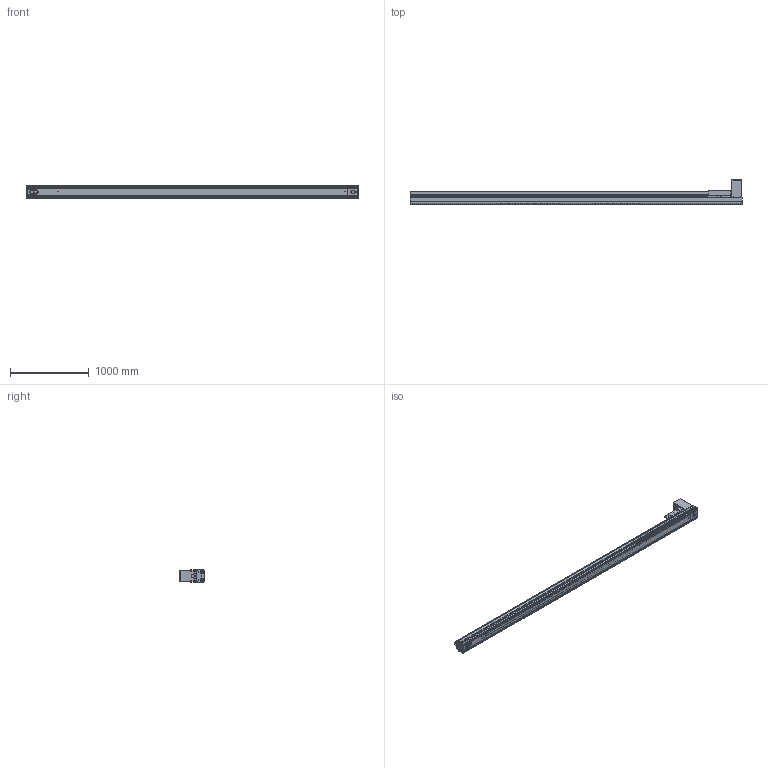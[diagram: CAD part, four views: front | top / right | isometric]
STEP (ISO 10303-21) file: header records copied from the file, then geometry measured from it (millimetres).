
FILE_DESCRIPTION((''),'2;1');
FILE_NAME('BE50G-BT-L19N-W65_IGS_PRT','2017-06-18T',(' '),(''),'PRO/ENGINEER BY PARAMETRIC TECHNOLOGY CORPORATION, 2015030','PRO/ENGINEER BY PARAMETRIC TECHNOLOGY CORPORATION, 2015030','');
FILE_SCHEMA(('CONFIG_CONTROL_DESIGN'));
Products named in the file (1): BE50G-BT-L19N-W65_IGS_PRT
Bounding box: 4220 x 309 x 160 mm (x, y, z)
Volume: 17042892.3 mm3; surface area: 8341043.1 mm2
Topology: 10 solids, 367 shells, 2321 faces, 7080 edges, 4839 vertices
Faces by surface type: cylinder 1365, plane 699, cone 214, sphere 23, torus 20
Entity records: 83435 total; most frequent: CARTESIAN_POINT 19121, DIRECTION 13499, ORIENTED_EDGE 12844, EDGE_CURVE 7006, AXIS2_PLACEMENT_3D 5159, VERTEX_POINT 4839, VECTOR 3181, LINE 3181
